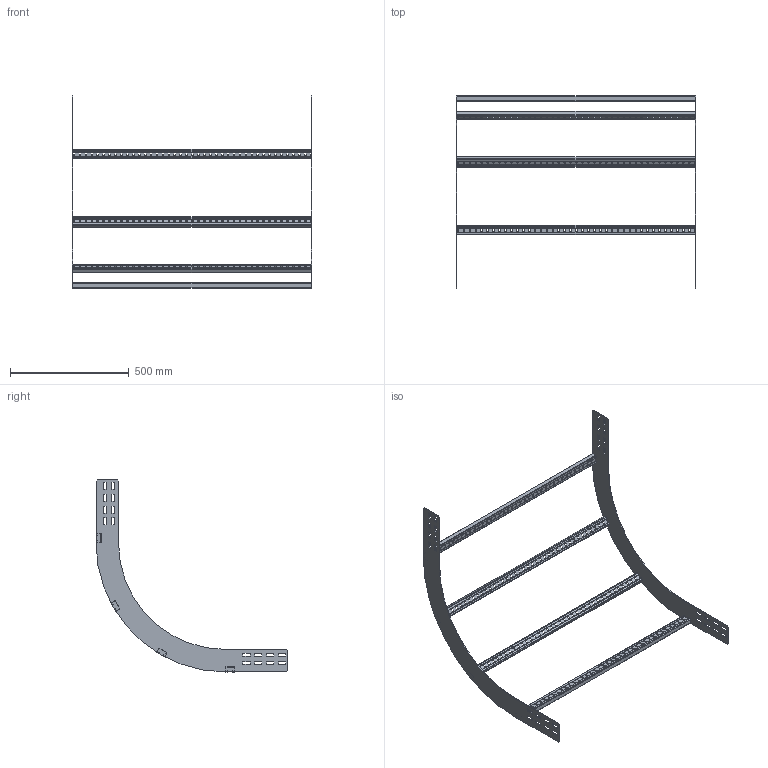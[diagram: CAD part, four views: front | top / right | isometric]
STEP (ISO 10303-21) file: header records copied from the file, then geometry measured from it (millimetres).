
FILE_DESCRIPTION(('Creo Elements/Direct Modeling STEP Export'),'2;1');
FILE_NAME('//pserver/office/EK/ME10-3D/3D-output/WPIR10-100-90-45.stp','2020-12-09T10:56:20',(''),(''),'PTC Creo Elements/Direct Modeling STEP processor for AP214 (Solid Model)','PTC Creo Elements/Direct Modeling 19.0C 15-Aug-2015 (C) Parametric Technology GmbH','');
FILE_SCHEMA(('AUTOMOTIVE_DESIGN { 1 0 10303 214 1 1 1 1 }'));
Length unit declared in the file: millimetre
Products named in the file (3): WPIBG100_450; WPSPF_100.003; WPIR10-100-90-45
Assembly tree (6 placements, depth 2):
  WPIR10-100-90-45
    WPSPF_100.003  x4
    WPIBG100_450  x2
Bounding box: 1011 x 810 x 810.5 mm (x, y, z)
Volume: 1310730.9 mm3; surface area: 1319431.3 mm2
Topology: 6 solids, 6 shells, 972 faces, 2880 edges, 1920 vertices
Faces by surface type: plane 568, cylinder 404
Entity records: 9718 total; most frequent: CARTESIAN_POINT 1671, ORIENTED_EDGE 1668, DIRECTION 1605, EDGE_CURVE 834, VECTOR 625, LINE 625, VERTEX_POINT 556, AXIS2_PLACEMENT_3D 490
